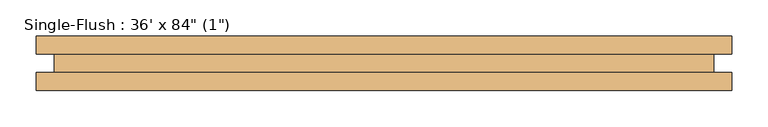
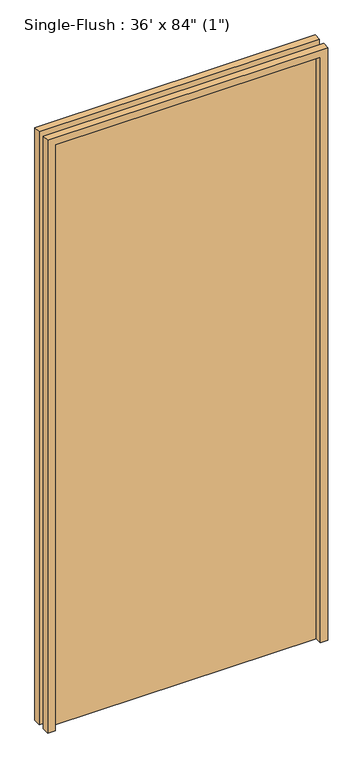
"""IFC4 building model written with IfcOpenShell, lengths in millimetres: door geometry."""

from ifc_helpers import new_model, si_unit, frame, origin, origin_with_axes, place, context, project, spatial, polyline, outline, extrude, source, transform, mapped, element, save


def door_633a1af0(model_context):
    return source(origin(), model_context, "Body", "SweptSolid", [
        extrude(outline(polyline([(2159.0, -482.6), (0.0, -482.6), (0.0, -457.2), (2133.6, -457.2), (2133.6, 457.2), (0.0, 457.2), (0.0, 482.6), (2159.0, 482.6), (2159.0, -482.6)])), frame((0.0, 12.7, 0.0), z_axis=(0.0, 1.0, 0.0), x_axis=(0.0, 0.0, 1.0)), (0.0, 0.0, 1.0), 25.4),
        extrude(outline(polyline([(2159.0, 482.6), (2159.0, -482.6), (0.0, -482.6), (0.0, -457.2), (2133.6, -457.2), (2133.6, 457.2), (0.0, 457.2), (0.0, 482.6), (2159.0, 482.6)])), frame((0.0, -38.1, 0.0), z_axis=(0.0, 1.0, 0.0), x_axis=(0.0, 0.0, 1.0)), (0.0, 0.0, 1.0), 25.4),
        extrude(outline(polyline([(457.2, -12.7), (-457.2, -12.7), (-457.2, 12.7), (457.2, 12.7), (457.2, -12.7)])), origin_with_axes(), (0.0, 0.0, 1.0), 2133.6),
    ])


if __name__ == "__main__":
    model = new_model("IFC4")
    model_context = context("Model", 3, world=origin())
    ifc_project = project(units=[si_unit("LENGTHUNIT", "METRE", prefix="MILLI")], contexts=[model_context])
    site = spatial("IfcSite", under=ifc_project)
    building = spatial("IfcBuilding", under=site)
    placement = place(None, origin())
    door_shape = door_633a1af0(model_context)
    element("IfcDoor", 1, ObjectType="Single-Flush : 36' x 84\" (1\")", at=placement, inside=building, context=model_context, shape_type="MappedRepresentation", body=[
        mapped(door_shape, transform((0.0, 0.0, 0.0), x_axis=(1.0, 0.0, 0.0), y_axis=(0.0, 1.0, 0.0), z_axis=(0.0, 0.0, 1.0))),
    ])
    save(model, "model.ifc")
